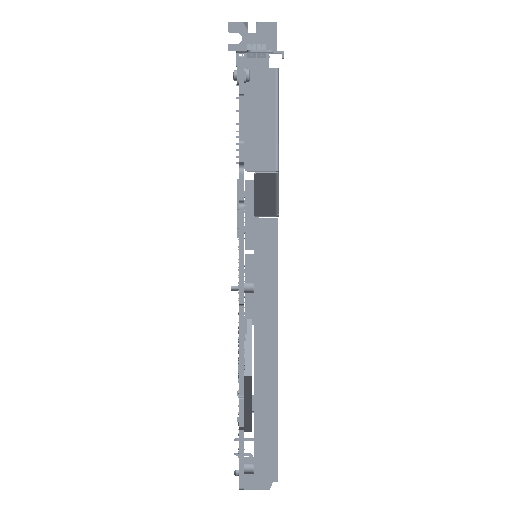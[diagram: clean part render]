
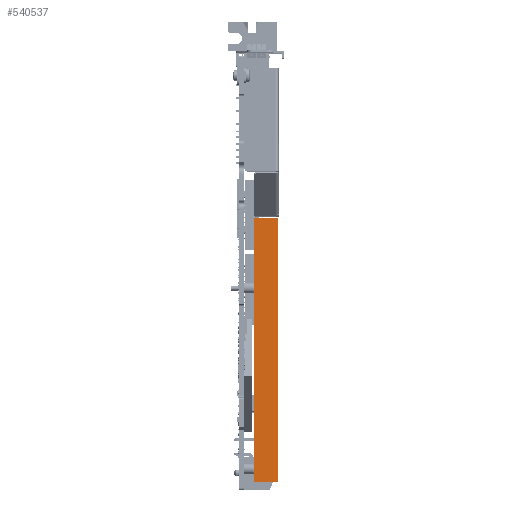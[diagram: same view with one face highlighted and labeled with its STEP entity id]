
A CAD part, top view. The second image highlights one B-rep face of the part: STEP entity #540537.
In plain terms, the highlighted planar face has unit normal (0, 0, 1) as drawn and (-1, 0, 0) by its records, which use the part's own axes.
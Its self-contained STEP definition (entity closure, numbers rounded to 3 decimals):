
#536303=DIRECTION('',(0.,1.,0.));
#536304=VECTOR('',#536303,9.3);
#536305=CARTESIAN_POINT('',(-30.,0.,51.));
#536306=LINE('',#536305,#536304);
#537119=CARTESIAN_POINT('',(-30.,9.,-50.7));
#537120=DIRECTION('',(1.,0.,0.));
#537121=DIRECTION('',(0.,0.,-1.));
#537122=AXIS2_PLACEMENT_3D('',#537119,#537120,#537121);
#537124=DIRECTION('',(0.,0.,1.));
#537125=VECTOR('',#537124,101.7);
#537126=CARTESIAN_POINT('',(-30.,9.3,-50.7));
#537127=LINE('',#537126,#537125);
#537128=DIRECTION('',(0.,0.,-1.));
#537129=VECTOR('',#537128,102.);
#537130=CARTESIAN_POINT('',(-30.,0.,51.));
#537131=LINE('',#537130,#537129);
#537132=DIRECTION('',(0.,1.,0.));
#537133=VECTOR('',#537132,9.);
#537134=CARTESIAN_POINT('',(-30.,0.,-51.));
#537135=LINE('',#537134,#537133);
#538752=CARTESIAN_POINT('',(-30.,0.,51.));
#538753=VERTEX_POINT('',#538752);
#538754=CARTESIAN_POINT('',(-30.,9.3,51.));
#538755=VERTEX_POINT('',#538754);
#538954=CARTESIAN_POINT('',(-30.,0.,-51.));
#538955=VERTEX_POINT('',#538954);
#539032=CARTESIAN_POINT('',(-30.,9.,-51.));
#539033=VERTEX_POINT('',#539032);
#539044=CARTESIAN_POINT('',(-30.,9.3,-50.7));
#539045=VERTEX_POINT('',#539044);
#540525=CARTESIAN_POINT('',(-30.,0.,-51.));
#540526=DIRECTION('',(-1.,0.,0.));
#540527=DIRECTION('',(0.,0.,1.));
#540528=AXIS2_PLACEMENT_3D('',#540525,#540526,#540527);
#540529=PLANE('',#540528);
#540530=ORIENTED_EDGE('',*,*,#540506,.T.);
#540531=ORIENTED_EDGE('',*,*,#540520,.T.);
#540532=ORIENTED_EDGE('',*,*,#539720,.F.);
#540533=ORIENTED_EDGE('',*,*,#540033,.T.);
#540534=ORIENTED_EDGE('',*,*,#540473,.T.);
#540535=EDGE_LOOP('',(#540530,#540531,#540532,#540533,#540534));
#540536=FACE_OUTER_BOUND('',#540535,.F.);
#540537=ADVANCED_FACE('',(#540536),#540529,.T.);
#537123=CIRCLE('',#537122,0.3);
#539720=EDGE_CURVE('',#538753,#538755,#536306,.T.);
#540033=EDGE_CURVE('',#538753,#538955,#537131,.T.);
#540473=EDGE_CURVE('',#538955,#539033,#537135,.T.);
#540506=EDGE_CURVE('',#539033,#539045,#537123,.T.);
#540520=EDGE_CURVE('',#539045,#538755,#537127,.T.);
